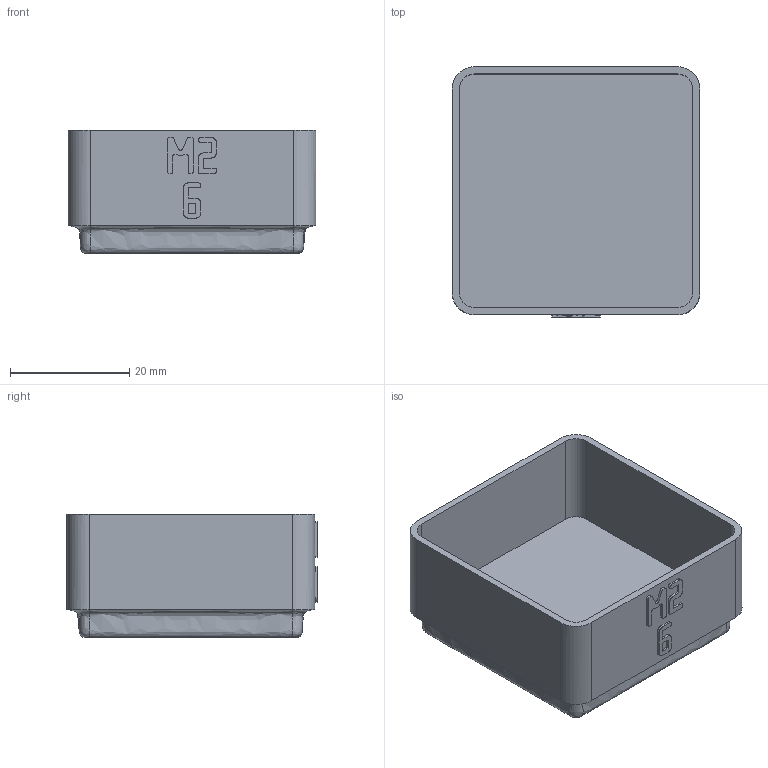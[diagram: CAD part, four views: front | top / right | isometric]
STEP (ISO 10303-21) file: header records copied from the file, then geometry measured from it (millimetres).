
FILE_DESCRIPTION(('Open CASCADE Model'),'2;1');
FILE_NAME('Open CASCADE Shape Model','2026-11-03T15:27:27',('Author'),( 'Open CASCADE'),'Open CASCADE STEP processor 8.0','build123d', 'Unknown');
FILE_SCHEMA(('AUTOMOTIVE_DESIGN { 1 0 10303 214 1 1 1 1 }'));
Length unit declared in the file: millimetre
Products named in the file (1): COMPOUND
Bounding box: 41.5 x 41.9 x 20.75 mm (x, y, z)
Volume: 9641 mm3; surface area: 8968 mm2
Topology: 1 solids, 1 shells, 373 faces, 1090 edges, 724 vertices
Faces by surface type: plane 357, bspline 8, cylinder 8
Entity records: 26016 total; most frequent: CARTESIAN_POINT 5640, DIRECTION 3274, LINE 2514, VECTOR 2514, ORIENTED_EDGE 2180, PCURVE 2180, DEFINITIONAL_REPRESENTATION 2180, EDGE_CURVE 1090
